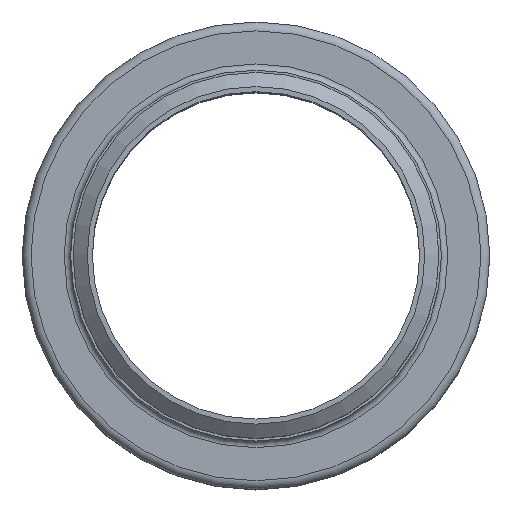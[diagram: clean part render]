
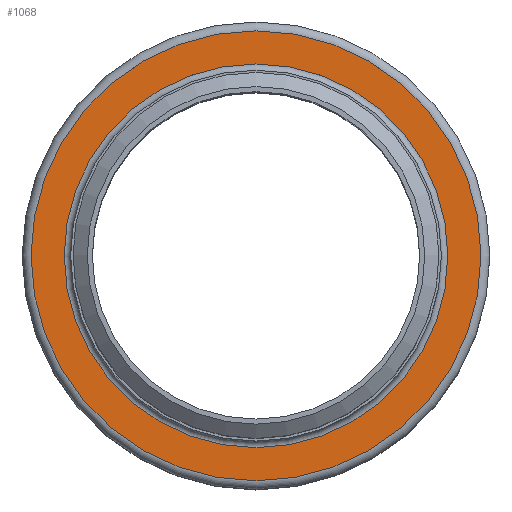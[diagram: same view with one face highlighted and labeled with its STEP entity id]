
A CAD part, top view. The second image highlights one B-rep face of the part: STEP entity #1068.
In plain terms, the highlighted planar face has unit normal (0, 0, 1).
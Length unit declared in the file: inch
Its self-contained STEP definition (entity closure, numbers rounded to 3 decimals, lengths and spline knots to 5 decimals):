
#102=FACE_BOUND('',#282,.T.);
#171=FACE_OUTER_BOUND('',#281,.T.);
#281=EDGE_LOOP('',(#824));
#282=EDGE_LOOP('',(#825));
#402=CIRCLE('',#1264,2.35875);
#403=CIRCLE('',#1266,2.76625);
#491=VERTEX_POINT('',#1935);
#492=VERTEX_POINT('',#1939);
#606=EDGE_CURVE('',#491,#491,#402,.T.);
#607=EDGE_CURVE('',#492,#492,#403,.T.);
#824=ORIENTED_EDGE('',*,*,#607,.F.);
#825=ORIENTED_EDGE('',*,*,#606,.T.);
#918=PLANE('',#1265);
#1068=ADVANCED_FACE('',(#171,#102),#918,.T.);
#1264=AXIS2_PLACEMENT_3D('',#1937,#1621,#1622);
#1265=AXIS2_PLACEMENT_3D('',#1938,#1623,#1624);
#1266=AXIS2_PLACEMENT_3D('',#1940,#1625,#1626);
#1621=DIRECTION('center_axis',(0.,0.,
-1.));
#1622=DIRECTION('ref_axis',(1.,0.,0.));
#1623=DIRECTION('center_axis',(0.,0.,
1.));
#1624=DIRECTION('ref_axis',(1.,0.,0.));
#1625=DIRECTION('center_axis',(0.,0.,
-1.));
#1626=DIRECTION('ref_axis',(1.,0.,0.));
#1935=CARTESIAN_POINT('',(2.35875,0.,-1.57875));
#1937=CARTESIAN_POINT('Origin',(0.,0.,
-1.57875));
#1938=CARTESIAN_POINT('Origin',(0.,2.76625,-1.57875));
#1939=CARTESIAN_POINT('',(2.76625,0.,-1.57875));
#1940=CARTESIAN_POINT('Origin',(0.,0.,
-1.57875));
